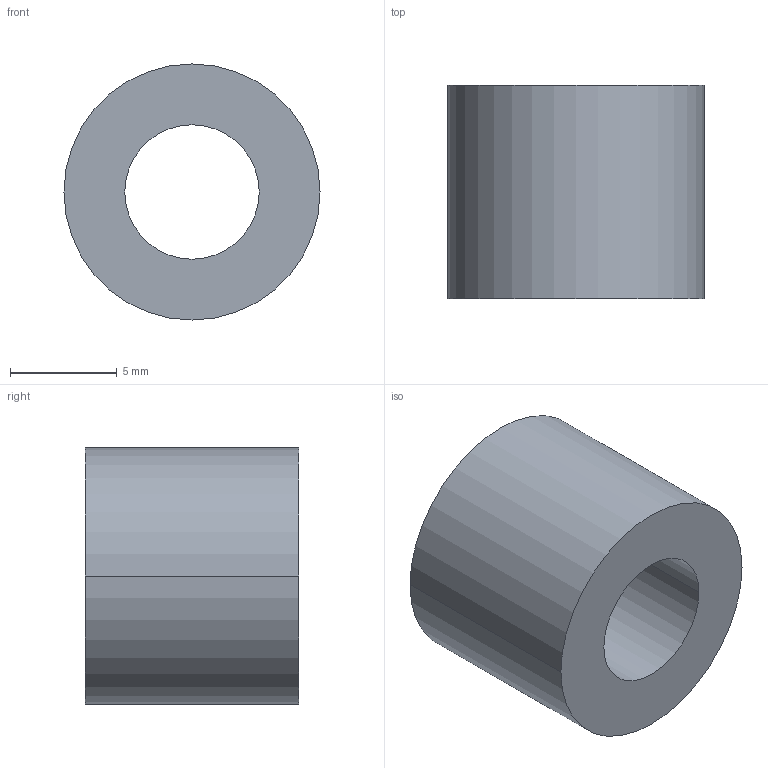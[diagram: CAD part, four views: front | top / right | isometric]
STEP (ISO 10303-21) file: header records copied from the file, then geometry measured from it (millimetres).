
FILE_DESCRIPTION (( 'STEP AP203' ), '1' );
FILE_NAME ('30800.WPP12D6.3.step', '2019-01-23T22:25:12', ( '' ), ( '' ), 'SwSTEP 2.0', 'SolidWorks 2017', '' );
FILE_SCHEMA (( 'CONFIG_CONTROL_DESIGN' ));
Length unit declared in the file: millimetre
Products named in the file (1): 30800.WPP12D6.3
Bounding box: 12 x 10 x 12 mm (x, y, z)
Volume: 808.7 mm3; surface area: 727 mm2
Topology: 1 solids, 1 shells, 8 faces, 16 edges, 10 vertices
Faces by surface type: cylinder 4, torus 2, plane 2
Entity records: 297 total; most frequent: DIRECTION 46, CARTESIAN_POINT 35, ORIENTED_EDGE 32, AXIS2_PLACEMENT_3D 21, EDGE_CURVE 16, CIRCLE 12, VERTEX_POINT 10, EDGE_LOOP 10
